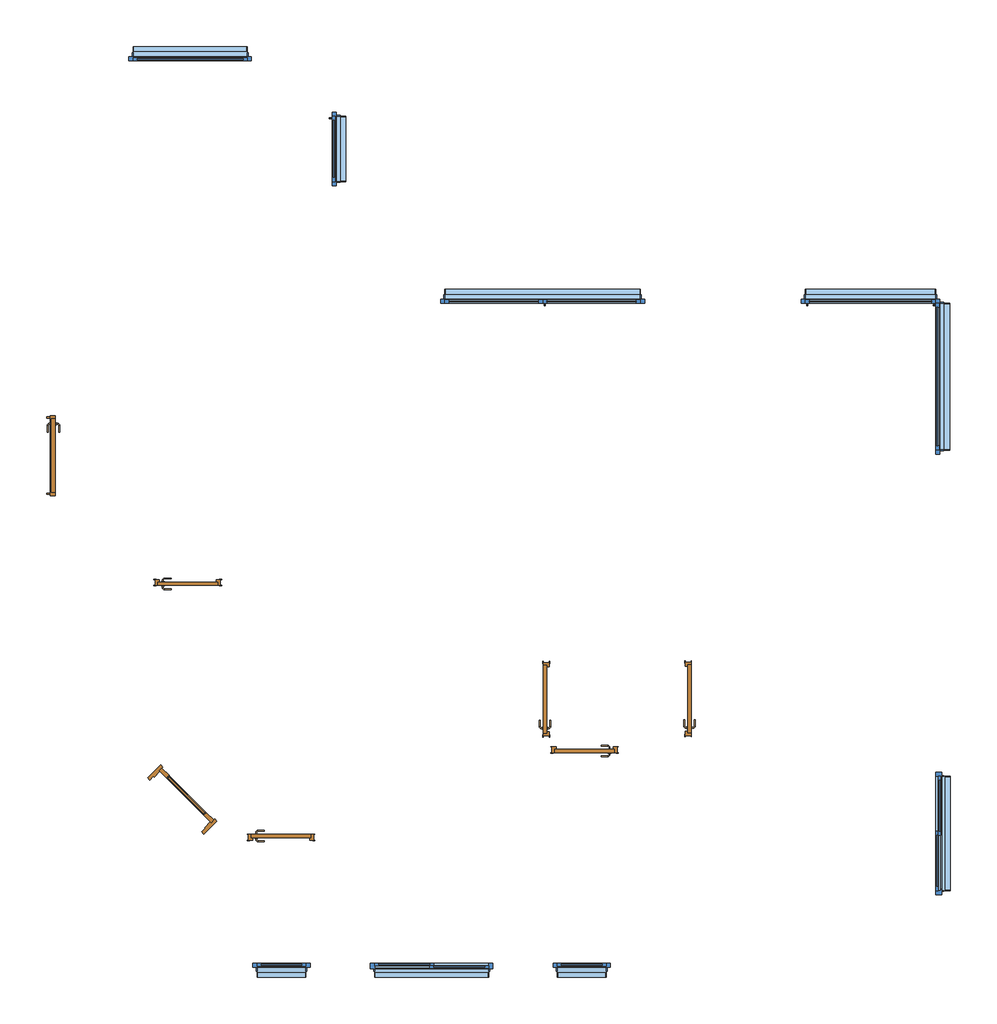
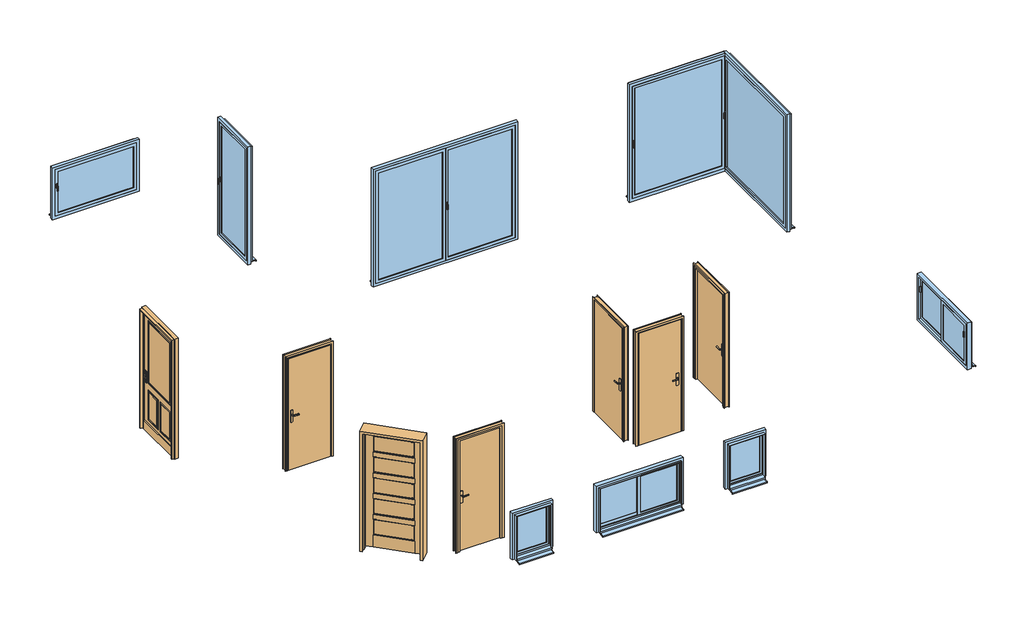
# One storey: 9 windows, 7 doors.
"""IFC4 building model written with IfcOpenShell, lengths in millimetres."""

from ifc_helpers import new_model, si_unit, origin, place, context, project, spatial, transform, mapped, element, save
from components import door_88e42b76, door_90_x_215_cm_61efbbe3, door_90_x_215_cm_9a8c3c66, int_simple_pp_0_73m_x_2_04m_0234ae46, int_simple_pp_0_73m_x_2_04m_d65dadfb, int_simple_pp_0_83m_x_2_04m_8f139ac8, int_simple_pp_0_83m_x_2_04m_a8378473, window_bf163d43, window_8530ac72, window_f47d9263, window_1_vantail_droit_blanc_140_90_20fa2057, window_1_vantail_droit_blanc_60_80_8d276e23, window_140_80_76053404, window_80_210_cb91392a

model = new_model("IFC4")

# Units and contexts
model_context = context("Model", 3, world=origin())
ifc_project = project(units=[si_unit("LENGTHUNIT", "METRE", prefix="MILLI")], contexts=[model_context])

# Site, building, storey
site = spatial("IfcSite", under=ifc_project)
building = spatial("IfcBuilding", under=site)
storey = spatial("IfcBuildingStorey", under=building, Name="1_Rez-de-chaussée", Elevation=0.0)

# Doors
placement = place(None, origin())
door_shape = door_88e42b76(model_context)
element("IfcDoor", 1, ObjectType="VLT17 Entrée : PP Avec moulures (0.90 m x 2.15 m)", at=placement, inside=storey, context=model_context, shape_type="MappedRepresentation", body=[
    mapped(door_shape, transform((-17781.7726031, 4979.9231713, 0.0), x_axis=(0.0, -1.0, 0.0), y_axis=(1.0, 0.0, 0.0), z_axis=(0.0, 0.0, 1.0))),
])
door_90_x_215_cm_shape = door_90_x_215_cm_61efbbe3(model_context)
door_90_x_215_cm_2_shape = door_90_x_215_cm_9a8c3c66(model_context)
element("IfcDoor", 2, ObjectType="Porte d'entrée gris : 90 x 215 cm", at=placement, inside=storey, context=model_context, shape_type="MappedRepresentation", body=[
    mapped(door_90_x_215_cm_shape, transform((-16118.4502788, 776.3064745, 0.0), x_axis=(-0.7071067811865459, 0.7071067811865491, 0.0), y_axis=(-0.7071067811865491, -0.7071067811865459, 0.0), z_axis=(0.0, 0.0, 1.0))),
    mapped(door_90_x_215_cm_2_shape, transform((-16118.4502788, 776.3064745, 0.0), x_axis=(-0.7071067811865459, 0.7071067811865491, 0.0), y_axis=(-0.7071067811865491, -0.7071067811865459, 0.0), z_axis=(0.0, 0.0, 1.0))),
])
int_simple_pp_0_73m_x_2_04m_shape = int_simple_pp_0_73m_x_2_04m_0234ae46(model_context)
element("IfcDoor", 3, ObjectType="Int. Simple : PP (0.73m x 2.04m)", at=placement, inside=storey, context=model_context, shape_type="MappedRepresentation", body=[
    mapped(int_simple_pp_0_73m_x_2_04m_shape, transform((-16015.9045516, 3434.9231713, 0.0), x_axis=(1.0, 0.0, 0.0), y_axis=(0.0, 1.0, 0.0), z_axis=(0.0, 0.0, 1.0))),
])
int_simple_pp_0_73m_x_2_04m_2_shape = int_simple_pp_0_73m_x_2_04m_d65dadfb(model_context)
element("IfcDoor", 4, ObjectType="Int. Simple : PP (0.73m x 2.04m)", at=placement, inside=storey, context=model_context, shape_type="MappedRepresentation", body=[
    mapped(int_simple_pp_0_73m_x_2_04m_2_shape, transform((-14871.7726031, 312.324325, 0.0), x_axis=(1.0, 0.0, 0.0), y_axis=(0.0, 1.0, 0.0), z_axis=(0.0, 0.0, 1.0))),
])
element("IfcDoor", 5, ObjectType="Int. Simple : PP (0.73m x 2.04m)", at=placement, inside=storey, context=model_context, shape_type="MappedRepresentation", body=[
    mapped(int_simple_pp_0_73m_x_2_04m_2_shape, transform((-11221.7726031, 1384.9231713, 0.0), x_axis=(-1.0, 0.0, 0.0), y_axis=(0.0, -1.0, 0.0), z_axis=(0.0, 0.0, 1.0))),
])
int_simple_pp_0_83m_x_2_04m_shape = int_simple_pp_0_83m_x_2_04m_8f139ac8(model_context)
element("IfcDoor", 6, ObjectType="Int. Simple : PP (0.83m x 2.04m)", at=placement, inside=storey, context=model_context, shape_type="MappedRepresentation", body=[
    mapped(int_simple_pp_0_83m_x_2_04m_shape, transform((-9916.7726031, 2044.9231713, 0.0), x_axis=(0.0, 1.0, 0.0), y_axis=(-1.0, 0.0, 0.0), z_axis=(0.0, 0.0, 1.0))),
])
int_simple_pp_0_83m_x_2_04m_2_shape = int_simple_pp_0_83m_x_2_04m_a8378473(model_context)
element("IfcDoor", 7, ObjectType="Int. Simple : PP (0.83m x 2.04m)", at=placement, inside=storey, context=model_context, shape_type="MappedRepresentation", body=[
    mapped(int_simple_pp_0_83m_x_2_04m_2_shape, transform((-11656.7726031, 2039.9231713, 0.0), x_axis=(0.0, 1.0, 0.0), y_axis=(-1.0, 0.0, 0.0), z_axis=(0.0, 0.0, 1.0))),
])

# Windows
window_shape = window_bf163d43(model_context)
element("IfcWindow", 8, ObjectType="PF 2 Vantaux - Droits blanc : 240/210", at=placement, inside=storey, context=model_context, shape_type="MappedRepresentation", body=[
    mapped(window_shape, transform((-11701.7726031, 6939.9231713, 0.0), x_axis=(1.0, 0.0, 0.0), y_axis=(0.0, 1.0, 0.0), z_axis=(0.0, 0.0, 1.0))),
])
window_2_shape = window_8530ac72(model_context)
element("IfcWindow", 9, ObjectType="PF 1 Vantail - Droite blanc : 160/210", at=placement, inside=storey, context=model_context, shape_type="MappedRepresentation", body=[
    mapped(window_2_shape, transform((-7681.7726031, 6939.9231713, 0.0), x_axis=(1.0, 0.0, 0.0), y_axis=(0.0, 1.0, 0.0), z_axis=(0.0, 0.0, 1.0))),
])
window_3_shape = window_f47d9263(model_context)
element("IfcWindow", 10, ObjectType="PF 1 Vantail - Droite blanc : 180/210", at=placement, inside=storey, context=model_context, shape_type="MappedRepresentation", body=[
    mapped(window_3_shape, transform((-6801.7726031, 5959.9231713, 0.0), x_axis=(0.0, -1.0, 0.0), y_axis=(1.0, 0.0, 0.0), z_axis=(0.0, 0.0, 1.0))),
])
window_1_vantail_droit_blanc_140_90_shape = window_1_vantail_droit_blanc_140_90_20fa2057(model_context)
element("IfcWindow", 11, ObjectType="1 Vantail - Droit blanc : 140/90", at=placement, inside=storey, context=model_context, shape_type="MappedRepresentation", body=[
    mapped(window_1_vantail_droit_blanc_140_90_shape, transform((-16021.7726031, 9909.9231713, 0.0), x_axis=(1.0, 0.0, 0.0), y_axis=(0.0, 1.0, 0.0), z_axis=(0.0, 0.0, 1.0))),
])
window_1_vantail_droit_blanc_60_80_shape = window_1_vantail_droit_blanc_60_80_8d276e23(model_context)
element("IfcWindow", 12, ObjectType="1 Vantail - Droit blanc : 60/80", at=placement, inside=storey, context=model_context, shape_type="MappedRepresentation", body=[
    mapped(window_1_vantail_droit_blanc_60_80_shape, transform((-11221.7726031, -1310.0768287, 0.0), x_axis=(-1.0, 0.0, 0.0), y_axis=(0.0, -1.0, 0.0), z_axis=(0.0, 0.0, 1.0))),
])
element("IfcWindow", 13, ObjectType="1 Vantail - Droit blanc : 60/80", at=placement, inside=storey, context=model_context, shape_type="MappedRepresentation", body=[
    mapped(window_1_vantail_droit_blanc_60_80_shape, transform((-14901.7726031, -1310.0768287, 0.0), x_axis=(-1.0, 0.0, 0.0), y_axis=(0.0, -1.0, 0.0), z_axis=(0.0, 0.0, 1.0))),
])
window_140_80_shape = window_140_80_76053404(model_context)
element("IfcWindow", 14, ObjectType="2 Vantaux coulissants - Droits blanc : 140/80", at=placement, inside=storey, context=model_context, shape_type="MappedRepresentation", body=[
    mapped(window_140_80_shape, transform((-13061.7726031, -1310.0768287, 0.0), x_axis=(-1.0, 0.0, 0.0), y_axis=(0.0, -1.0, 0.0), z_axis=(0.0, 0.0, 1.0))),
])
element("IfcWindow", 15, ObjectType="2 Vantaux coulissants - Droits blanc : 140/80", at=placement, inside=storey, context=model_context, shape_type="MappedRepresentation", body=[
    mapped(window_140_80_shape, transform((-6801.7726031, 359.9231713, 0.0), x_axis=(0.0, -1.0, 0.0), y_axis=(1.0, 0.0, 0.0), z_axis=(0.0, 0.0, 1.0))),
])
window_80_210_shape = window_80_210_cb91392a(model_context)
element("IfcWindow", 16, ObjectType="PF 1 Vantail - Droite blanc : 80/210", at=placement, inside=storey, context=model_context, shape_type="MappedRepresentation", body=[
    mapped(window_80_210_shape, transform((-14201.7726031, 8749.9231713, 0.0), x_axis=(0.0, -1.0, 0.0), y_axis=(1.0, 0.0, 0.0), z_axis=(0.0, 0.0, 1.0))),
])

save(model, "model.ifc")
